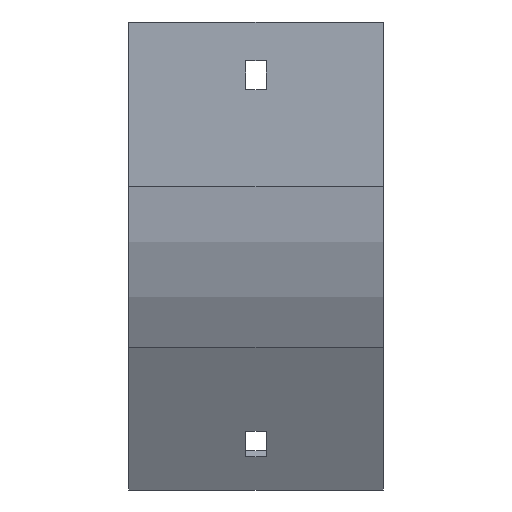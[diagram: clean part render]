
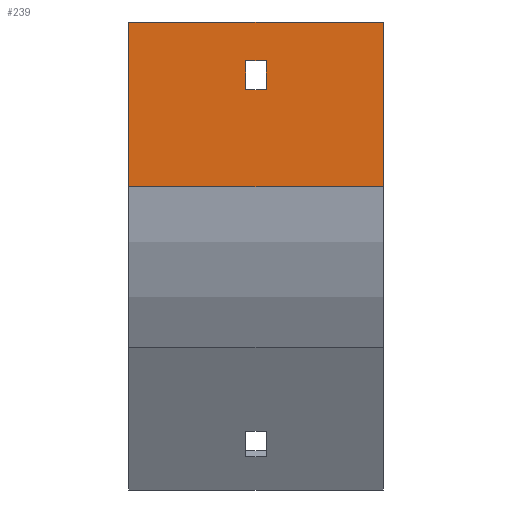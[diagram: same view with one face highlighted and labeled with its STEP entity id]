
A CAD part, front view. The second image highlights one B-rep face of the part: STEP entity #239.
In plain terms, the highlighted planar face has unit normal (0, -1, 0).
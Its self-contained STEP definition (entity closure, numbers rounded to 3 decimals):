
#5 = VECTOR ( 'NONE', #785, 1000. ) ;
#86 = DIRECTION ( 'NONE',  ( 0., 0., -1. ) ) ;
#116 = CARTESIAN_POINT ( 'NONE',  ( 39.5, -79., 0. ) ) ;
#135 = VECTOR ( 'NONE', #881, 1000. ) ;
#194 = LINE ( 'NONE', #467, #5 ) ;
#229 = DIRECTION ( 'NONE',  ( -1., 0., 0. ) ) ;
#231 = LINE ( 'NONE', #833, #1618 ) ;
#239 = ADVANCED_FACE ( 'NONE', ( #1159, #1499 ), #1179, .F. ) ;
#258 = CARTESIAN_POINT ( 'NONE',  ( -3.25, -79., -12. ) ) ;
#326 = CARTESIAN_POINT ( 'NONE',  ( -39.5, -79., 0. ) ) ;
#335 = LINE ( 'NONE', #941, #1928 ) ;
#347 = EDGE_LOOP ( 'NONE', ( #1287, #1397, #1854, #685 ) ) ;
#467 = CARTESIAN_POINT ( 'NONE',  ( 39.5, -79., -51.168 ) ) ;
#542 = EDGE_CURVE ( 'NONE', #1108, #1138, #1323, .T. ) ;
#565 = DIRECTION ( 'NONE',  ( 0., 0., -1. ) ) ;
#632 = AXIS2_PLACEMENT_3D ( 'NONE', #1800, #1478, #1506 ) ;
#685 = ORIENTED_EDGE ( 'NONE', *, *, #1291, .T. ) ;
#689 = EDGE_LOOP ( 'NONE', ( #1316, #1537, #1001, #1373 ) ) ;
#749 = CARTESIAN_POINT ( 'NONE',  ( 39.5, -79., 0. ) ) ;
#785 = DIRECTION ( 'NONE',  ( 0., 0., -1. ) ) ;
#789 = CARTESIAN_POINT ( 'NONE',  ( -39.5, -79., -51.168 ) ) ;
#809 = LINE ( 'NONE', #1241, #1770 ) ;
#833 = CARTESIAN_POINT ( 'NONE',  ( 3.25, -79., -21. ) ) ;
#843 = VERTEX_POINT ( 'NONE', #1496 ) ;
#854 = DIRECTION ( 'NONE',  ( 1., 0., 0. ) ) ;
#861 = EDGE_CURVE ( 'NONE', #1302, #1777, #809, .T. ) ;
#881 = DIRECTION ( 'NONE',  ( -1., 0., 0. ) ) ;
#889 = EDGE_CURVE ( 'NONE', #1916, #1302, #335, .T. ) ;
#941 = CARTESIAN_POINT ( 'NONE',  ( -3.25, -79., -21. ) ) ;
#986 = LINE ( 'NONE', #258, #1826 ) ;
#1001 = ORIENTED_EDGE ( 'NONE', *, *, #1489, .F. ) ;
#1046 = VERTEX_POINT ( 'NONE', #1392 ) ;
#1063 = VECTOR ( 'NONE', #565, 1000. ) ;
#1072 = DIRECTION ( 'NONE',  ( -1., 0., 0. ) ) ;
#1108 = VERTEX_POINT ( 'NONE', #326 ) ;
#1138 = VERTEX_POINT ( 'NONE', #789 ) ;
#1148 = VERTEX_POINT ( 'NONE', #116 ) ;
#1159 = FACE_BOUND ( 'NONE', #347, .T. ) ;
#1179 = PLANE ( 'NONE',  #632 ) ;
#1183 = LINE ( 'NONE', #749, #135 ) ;
#1225 = VECTOR ( 'NONE', #229, 1000. ) ;
#1241 = CARTESIAN_POINT ( 'NONE',  ( -3.25, -79., -21. ) ) ;
#1249 = CARTESIAN_POINT ( 'NONE',  ( 3.25, -79., -21. ) ) ;
#1286 = CARTESIAN_POINT ( 'NONE',  ( -3.25, -79., -21. ) ) ;
#1287 = ORIENTED_EDGE ( 'NONE', *, *, #889, .T. ) ;
#1291 = EDGE_CURVE ( 'NONE', #843, #1916, #231, .T. ) ;
#1302 = VERTEX_POINT ( 'NONE', #1286 ) ;
#1316 = ORIENTED_EDGE ( 'NONE', *, *, #542, .T. ) ;
#1323 = LINE ( 'NONE', #1935, #1063 ) ;
#1335 = EDGE_CURVE ( 'NONE', #1148, #1108, #1183, .T. ) ;
#1349 = CARTESIAN_POINT ( 'NONE',  ( -3.25, -79., -12. ) ) ;
#1373 = ORIENTED_EDGE ( 'NONE', *, *, #1335, .T. ) ;
#1392 = CARTESIAN_POINT ( 'NONE',  ( 39.5, -79., -51.168 ) ) ;
#1397 = ORIENTED_EDGE ( 'NONE', *, *, #861, .T. ) ;
#1474 = LINE ( 'NONE', #1894, #1225 ) ;
#1478 = DIRECTION ( 'NONE',  ( 0., 1., 0. ) ) ;
#1489 = EDGE_CURVE ( 'NONE', #1148, #1046, #194, .T. ) ;
#1496 = CARTESIAN_POINT ( 'NONE',  ( 3.25, -79., -12. ) ) ;
#1499 = FACE_OUTER_BOUND ( 'NONE', #689, .T. ) ;
#1506 = DIRECTION ( 'NONE',  ( 0., 0., 1. ) ) ;
#1537 = ORIENTED_EDGE ( 'NONE', *, *, #1706, .F. ) ;
#1590 = EDGE_CURVE ( 'NONE', #1777, #843, #986, .T. ) ;
#1618 = VECTOR ( 'NONE', #86, 1000. ) ;
#1706 = EDGE_CURVE ( 'NONE', #1046, #1138, #1474, .T. ) ;
#1770 = VECTOR ( 'NONE', #1861, 1000. ) ;
#1777 = VERTEX_POINT ( 'NONE', #1349 ) ;
#1800 = CARTESIAN_POINT ( 'NONE',  ( 39.5, -79., -51.168 ) ) ;
#1826 = VECTOR ( 'NONE', #854, 1000. ) ;
#1854 = ORIENTED_EDGE ( 'NONE', *, *, #1590, .T. ) ;
#1861 = DIRECTION ( 'NONE',  ( 0., 0., 1. ) ) ;
#1894 = CARTESIAN_POINT ( 'NONE',  ( 39.5, -79., -51.168 ) ) ;
#1916 = VERTEX_POINT ( 'NONE', #1249 ) ;
#1928 = VECTOR ( 'NONE', #1072, 1000. ) ;
#1935 = CARTESIAN_POINT ( 'NONE',  ( -39.5, -79., -51.168 ) ) ;
